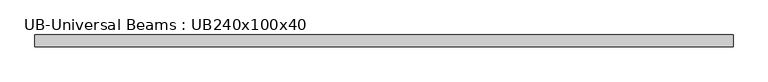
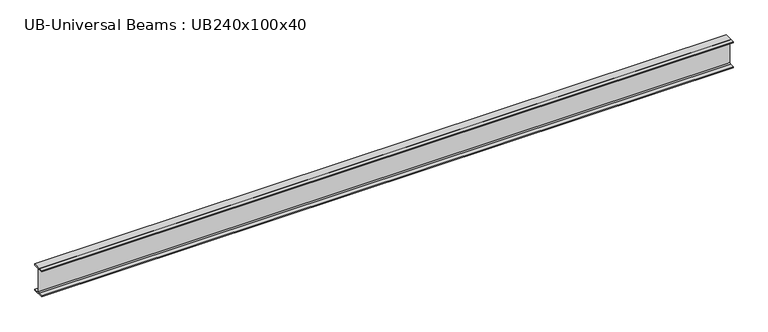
"""IFC4 building model written with IfcOpenShell, lengths in millimetres: beam geometry, UB-Universal Beams : UB240x100x40."""

from ifc_helpers import new_model, si_unit, point, frame, frame_2d, origin, place, context, project, spatial, polyline, circle_curve, trimmed, segment, composite_curve, outline, extrude, source, transform, mapped, element, save


def ub_universal_beams_ub240x100x40_f5e3285b(model_context):
    return source(origin(), model_context, "Body", "SweptSolid", [
        extrude(outline(composite_curve([segment(polyline([(-50.0, -109.8), (-11.9, -109.8)]), True, "CONTINUOUS"), segment(trimmed(circle_curve(frame_2d((-11.9, -100.9)), 8.9), [point((-11.9, -109.8))], [point((-3.0, -100.9))], True, "CARTESIAN"), True, "CONTINUOUS"), segment(polyline([(-3.0, -100.9), (-3.0, 100.9)]), True, "CONTINUOUS"), segment(trimmed(circle_curve(frame_2d((-11.9, 100.9)), 8.9), [point((-3.0, 100.9))], [point((-11.9, 109.8))], True, "CARTESIAN"), True, "CONTINUOUS"), segment(polyline([(-11.9, 109.8), (-50.0, 109.8), (-50.0, 120.0), (50.0, 120.0), (50.0, 109.8), (11.9, 109.8)]), True, "CONTINUOUS"), segment(trimmed(circle_curve(frame_2d((11.9, 100.9)), 8.9), [point((11.9, 109.8))], [point((3.0, 100.9))], True, "CARTESIAN"), True, "CONTINUOUS"), segment(polyline([(3.0, 100.9), (3.0, -100.9)]), True, "CONTINUOUS"), segment(trimmed(circle_curve(frame_2d((11.9, -100.9)), 8.9), [point((3.0, -100.9))], [point((11.9, -109.8))], True, "CARTESIAN"), True, "CONTINUOUS"), segment(polyline([(11.9, -109.8), (50.0, -109.8), (50.0, -120.0), (-50.0, -120.0), (-50.0, -109.8)]), True, "CONTINUOUS")], self_intersect=False)), frame((-2979.85, 0.0, 0.0), z_axis=(1.0, 0.0, 0.0), x_axis=(0.0, 1.0, 0.0)), (0.0, 0.0, 1.0), 5949.8),
    ])


if __name__ == "__main__":
    model = new_model("IFC4")
    model_context = context("Model", 3, world=origin())
    ifc_project = project(units=[si_unit("LENGTHUNIT", "METRE", prefix="MILLI")], contexts=[model_context])
    site = spatial("IfcSite", under=ifc_project)
    building = spatial("IfcBuilding", under=site)
    placement = place(None, origin())
    ub_universal_beams_ub240x100x40_shape = ub_universal_beams_ub240x100x40_f5e3285b(model_context)
    element("IfcBeam", 1, ObjectType="UB-Universal Beams : UB240x100x40", at=placement, inside=building, context=model_context, shape_type="MappedRepresentation", body=[
        mapped(ub_universal_beams_ub240x100x40_shape, transform((0.0, 0.0, 0.0), x_axis=(1.0, 0.0, 0.0), y_axis=(0.0, 1.0, 0.0), z_axis=(0.0, 0.0, 1.0))),
    ])
    save(model, "model.ifc")
